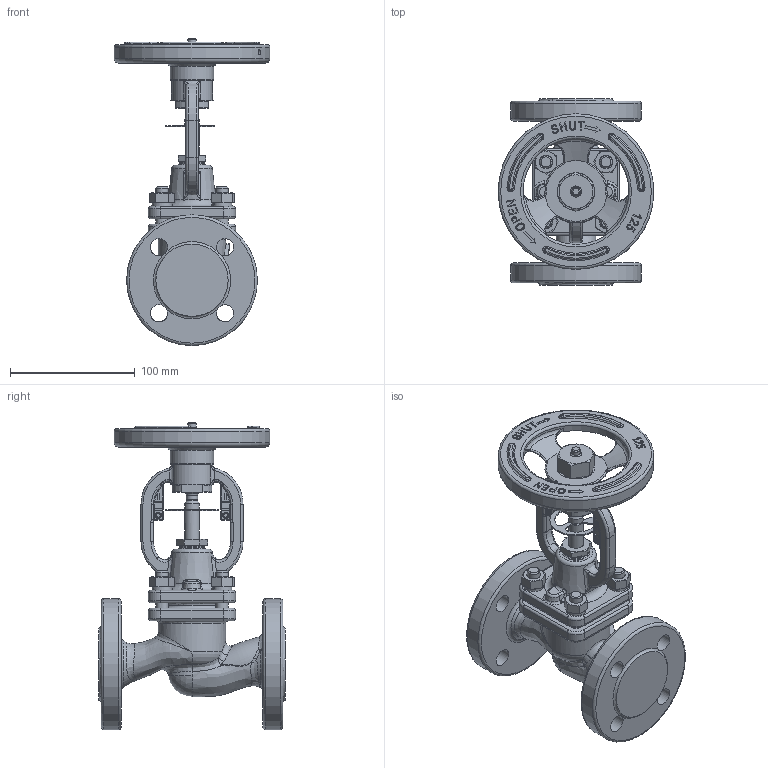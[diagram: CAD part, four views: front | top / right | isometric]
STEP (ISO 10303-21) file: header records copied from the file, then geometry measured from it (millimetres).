
FILE_DESCRIPTION(/* description */ (''),/* implementation_level */ '2;1');
FILE_NAME(/* name */ 'ZV226E_DN20_PN40.stp',/* time_stamp */ '2014-09-30T06:35:00+02:00',/* author */ (''),/* organization */ (''),/* preprocessor_version */ 'ST-DEVELOPER v15',/* originating_system */ 'SIEMENS PLM Software NX 8.5',/* authorisation */ '');
FILE_SCHEMA (('AP203_CONFIGURATION_CONTROLLED_3D_DESIGN_OF_MECHANICAL_PARTS_AND_ASSEMBLIES_MIM_LF { 1 0 10303 403 2 1 2}'));
Length unit declared in the file: millimetre
Products named in the file (1): adam0F487721p587
Bounding box: 125 x 150 x 246.7 mm (x, y, z)
Volume: 694716 mm3; surface area: 142126.3 mm2
Topology: 1 solids, 1 shells, 869 faces, 2196 edges, 1328 vertices
Faces by surface type: plane 320, cylinder 165, bspline 133, torus 124, cone 97, extrusion 22, sphere 7, revolution 1
Full cylindrical faces by diameter (mm): 3 x4, 4 x1, 5 x4, 7 x1, 9 x2, 10 x12, 12 x3, 14 x8, 19.7 x1, 22 x1, 24 x1, 25 x1, 30 x1, 30.2 x1, 35 x3, 48 x1, 54 x1, 85 x1, 88 x1, 105 x2, 107 x1, 122 x1, 125 x1
Entity records: 35665 total; most frequent: CARTESIAN_POINT 16871, ORIENTED_EDGE 4010, DIRECTION 3562, EDGE_CURVE 2005, AXIS2_PLACEMENT_3D 1481, VERTEX_POINT 1269, EDGE_LOOP 1068, ADVANCED_FACE 869
